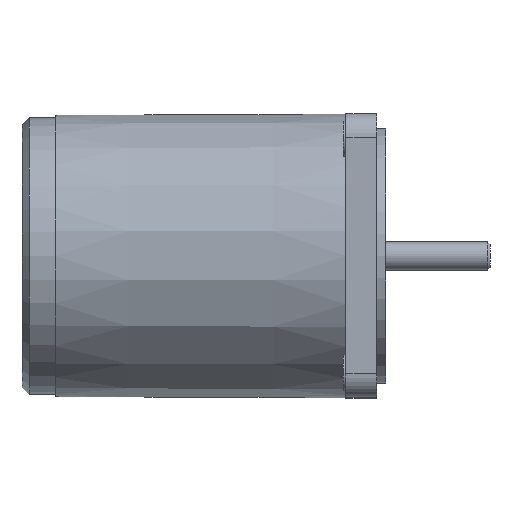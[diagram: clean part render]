
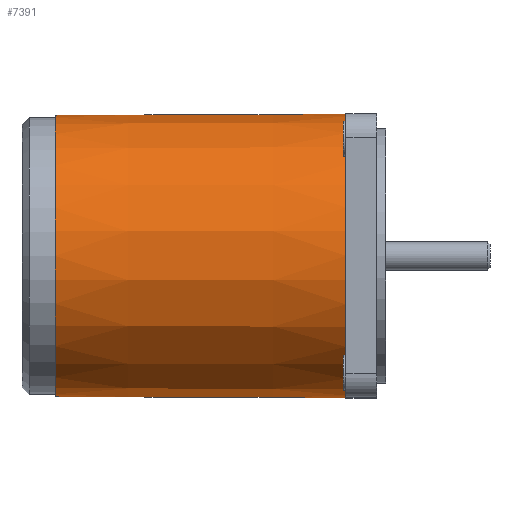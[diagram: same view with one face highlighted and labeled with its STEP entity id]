
A CAD part, top view. The second image highlights one B-rep face of the part: STEP entity #7391.
In plain terms, the highlighted conical face has half-angle 0.233 degrees and reference radius 29.875 mm.
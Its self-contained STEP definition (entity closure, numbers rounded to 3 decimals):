
#73=CARTESIAN_POINT('',(68.5,-30.,0.));
#74=VERTEX_POINT('',#73);
#75=CARTESIAN_POINT('',(68.5,-21.782,-20.628));
#76=VERTEX_POINT('',#75);
#77=CARTESIAN_POINT('',(68.5,0.,0.0));
#78=DIRECTION('',(1.0,0.0,0.0));
#79=DIRECTION('',(0.0,1.0,0.0));
#80=AXIS2_PLACEMENT_3D('',#77,#78,#79);
#81=CIRCLE('',#80,30.0);
#82=EDGE_CURVE('',#74,#76,#81,.T.);
#166=CARTESIAN_POINT('',(68.5,0.,30.));
#167=VERTEX_POINT('',#166);
#168=CARTESIAN_POINT('',(68.5,0.,0.0));
#169=DIRECTION('',(1.0,0.0,0.0));
#170=DIRECTION('',(0.0,1.0,0.0));
#171=AXIS2_PLACEMENT_3D('',#168,#169,#170);
#172=CIRCLE('',#171,30.0);
#173=EDGE_CURVE('',#167,#74,#172,.T.);
#217=CARTESIAN_POINT('',(68.5,30.,0.));
#218=VERTEX_POINT('',#217);
#219=CARTESIAN_POINT('',(68.5,0.,0.0));
#220=DIRECTION('',(1.0,0.0,0.0));
#221=DIRECTION('',(0.0,1.0,0.0));
#222=AXIS2_PLACEMENT_3D('',#219,#220,#221);
#223=CIRCLE('',#222,30.0);
#224=EDGE_CURVE('',#218,#167,#223,.T.);
#996=CARTESIAN_POINT('',(68.5,21.782,-20.628));
#997=VERTEX_POINT('',#996);
#998=CARTESIAN_POINT('',(68.5,0.,0.0));
#999=DIRECTION('',(1.0,0.0,0.0));
#1000=DIRECTION('',(0.0,1.0,0.0));
#1001=AXIS2_PLACEMENT_3D('',#998,#999,#1000);
#1002=CIRCLE('',#1001,30.0);
#1003=EDGE_CURVE('',#997,#218,#1002,.T.);
#7008=CARTESIAN_POINT('',(26.5,-21.289,-20.894));
#7009=VERTEX_POINT('',#7008);
#7019=CARTESIAN_POINT('',(26.5,21.289,-20.894));
#7020=VERTEX_POINT('',#7019);
#7021=CARTESIAN_POINT('',(26.5,0.,0.0));
#7022=DIRECTION('',(-1.0,0.0,0.0));
#7023=DIRECTION('',(0.0,1.0,0.0));
#7024=AXIS2_PLACEMENT_3D('',#7021,#7022,#7023);
#7025=CIRCLE('',#7024,29.829);
#7026=EDGE_CURVE('',#7020,#7009,#7025,.T.);
#7221=CARTESIAN_POINT('',(26.5,21.769,-20.393));
#7222=VERTEX_POINT('',#7221);
#7223=CARTESIAN_POINT('',(26.5,0.,0.0));
#7224=DIRECTION('',(-1.0,0.0,0.0));
#7225=DIRECTION('',(0.0,1.0,0.0));
#7226=AXIS2_PLACEMENT_3D('',#7223,#7224,#7225);
#7227=CIRCLE('',#7226,29.829);
#7228=EDGE_CURVE('',#7222,#7020,#7227,.T.);
#7230=CARTESIAN_POINT('',(68.5,21.782,-20.628));
#7231=CARTESIAN_POINT('',(47.386,21.776,-20.51));
#7232=CARTESIAN_POINT('',(26.5,21.769,-20.393));
#7240=(BOUNDED_CURVE()B_SPLINE_CURVE(2,(#7230,#7231,#7232),.UNSPECIFIED.,.F.,.U.)B_SPLINE_CURVE_WITH_KNOTS((3,3),(0.0,4.2),.UNSPECIFIED.)CURVE()GEOMETRIC_REPRESENTATION_ITEM()RATIONAL_B_SPLINE_CURVE((1.0,1.,1.0))REPRESENTATION_ITEM(''));
#7241=EDGE_CURVE('',#997,#7222,#7240,.T.);
#7338=CARTESIAN_POINT('',(26.5,-21.769,-20.393));
#7339=VERTEX_POINT('',#7338);
#7340=CARTESIAN_POINT('',(26.5,-21.769,-20.393));
#7341=CARTESIAN_POINT('',(47.386,-21.776,-20.51));
#7342=CARTESIAN_POINT('',(68.5,-21.782,-20.628));
#7350=(BOUNDED_CURVE()B_SPLINE_CURVE(2,(#7340,#7341,#7342),.UNSPECIFIED.,.F.,.U.)B_SPLINE_CURVE_WITH_KNOTS((3,3),(0.0,4.2),.UNSPECIFIED.)CURVE()GEOMETRIC_REPRESENTATION_ITEM()RATIONAL_B_SPLINE_CURVE((1.0,1.,1.0))REPRESENTATION_ITEM(''));
#7351=EDGE_CURVE('',#7339,#76,#7350,.T.);
#7353=CARTESIAN_POINT('',(26.5,0.,0.0));
#7354=DIRECTION('',(-1.0,0.0,0.0));
#7355=DIRECTION('',(0.0,1.0,0.0));
#7356=AXIS2_PLACEMENT_3D('',#7353,#7354,#7355);
#7357=CIRCLE('',#7356,29.829);
#7358=EDGE_CURVE('',#7009,#7339,#7357,.T.);
#7364=CARTESIAN_POINT('',(37.75,0.,0.0));
#7365=DIRECTION('',(1.0,0.,0.0));
#7366=DIRECTION('',(0.0,1.0,0.0));
#7367=AXIS2_PLACEMENT_3D('',#7364,#7365,#7366);
#7368=CONICAL_SURFACE('',#7367,29.875,0.233);
#7369=CARTESIAN_POINT('',(7.,29.75,0.0));
#7370=VERTEX_POINT('',#7369);
#7371=CARTESIAN_POINT('',(7.,0.,0.0));
#7372=DIRECTION('',(1.0,0.0,0.0));
#7373=DIRECTION('',(0.0,1.0,0.0));
#7374=AXIS2_PLACEMENT_3D('',#7371,#7372,#7373);
#7375=CIRCLE('',#7374,29.75);
#7376=EDGE_CURVE('',#7370,#7370,#7375,.T.);
#7377=ORIENTED_EDGE('',*,*,#7376,.T.);
#7378=EDGE_LOOP('',(#7377));
#7379=FACE_OUTER_BOUND('',#7378,.T.);
#7380=ORIENTED_EDGE('',*,*,#7241,.T.);
#7381=ORIENTED_EDGE('',*,*,#7228,.T.);
#7382=ORIENTED_EDGE('',*,*,#7026,.T.);
#7383=ORIENTED_EDGE('',*,*,#7358,.T.);
#7384=ORIENTED_EDGE('',*,*,#7351,.T.);
#7385=ORIENTED_EDGE('',*,*,#82,.F.);
#7386=ORIENTED_EDGE('',*,*,#173,.F.);
#7387=ORIENTED_EDGE('',*,*,#224,.F.);
#7388=ORIENTED_EDGE('',*,*,#1003,.F.);
#7389=EDGE_LOOP('',(#7380,#7381,#7382,#7383,#7384,#7385,#7386,#7387,#7388));
#7390=FACE_BOUND('',#7389,.T.);
#7391=ADVANCED_FACE('',(#7379,#7390),#7368,.T.);
